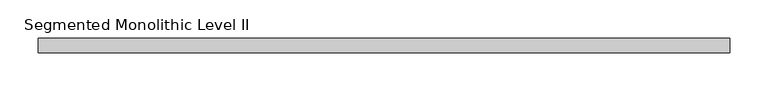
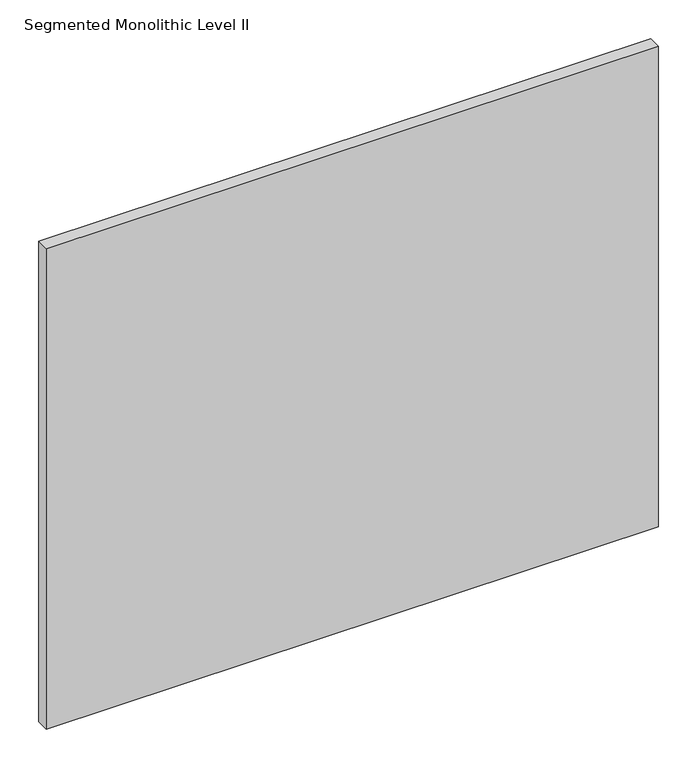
"""IFC4 building model written with IfcOpenShell, lengths in millimetres: proxy geometry, Panel-Fascia-Teknion-Altos-Standard : Segmented Monolithic Level II."""

from ifc_helpers import new_model, si_unit, frame, origin, place, context, project, spatial, polyline, outline, extrude, source, transform, mapped, element, save


def segmented_monolithic_level_ii_9478e5b5(model_context):
    return source(origin(), model_context, "Body", "SweptSolid", [
        extrude(outline(polyline([(454.0305563, 9.525), (454.0305563, -9.525), (-454.0305562, -9.525), (-454.0305562, 9.525), (454.0305563, 9.525)])), frame((0.0, 0.0, 3.175), z_axis=(0.0, 0.0, 1.0), x_axis=(1.0, 0.0, 0.0)), (0.0, 0.0, 1.0), 753.618),
    ])


if __name__ == "__main__":
    model = new_model("IFC4")
    model_context = context("Model", 3, world=origin())
    ifc_project = project(units=[si_unit("LENGTHUNIT", "METRE", prefix="MILLI")], contexts=[model_context])
    site = spatial("IfcSite", under=ifc_project)
    building = spatial("IfcBuilding", under=site)
    placement = place(None, origin())
    segmented_monolithic_level_ii_shape = segmented_monolithic_level_ii_9478e5b5(model_context)
    element("IfcBuildingElementProxy", 1, Name="Panel-Fascia-Teknion-Altos-Standard : Segmented Monolithic Level II", ObjectType="Panel-Fascia-Teknion-Altos-Standard : Segmented Monolithic Level II", at=placement, inside=building, context=model_context, shape_type="MappedRepresentation", body=[
        mapped(segmented_monolithic_level_ii_shape, transform((0.0, 0.0, 0.0), x_axis=(1.0, 0.0, 0.0), y_axis=(0.0, 1.0, 0.0), z_axis=(0.0, 0.0, 1.0))),
    ])
    save(model, "model.ifc")
